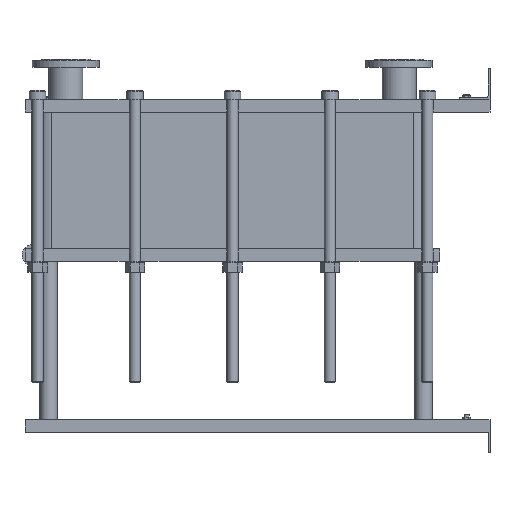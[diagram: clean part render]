
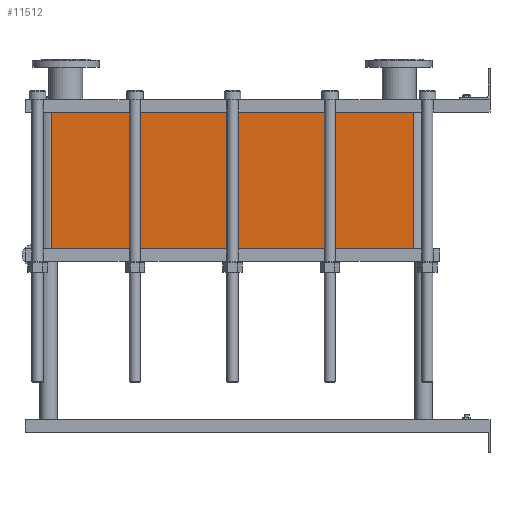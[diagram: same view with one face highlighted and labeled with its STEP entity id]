
A CAD part, left-side view. The second image highlights one B-rep face of the part: STEP entity #11512.
In plain terms, the highlighted planar face has unit normal (-1, 0, 0).
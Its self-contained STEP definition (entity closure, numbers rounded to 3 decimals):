
#1129=LINE('',#23232,#2102);
#1130=LINE('',#23236,#2103);
#1131=LINE('',#23238,#2104);
#1132=LINE('',#23239,#2105);
#2102=VECTOR('',#15887,10.);
#2103=VECTOR('',#15892,10.);
#2104=VECTOR('',#15893,10.);
#2105=VECTOR('',#15894,10.);
#3267=FACE_OUTER_BOUND('',#4093,.T.);
#4093=EDGE_LOOP('',(#10103,#10104,#10105,#10106));
#5642=VERTEX_POINT('',#23229);
#5643=VERTEX_POINT('',#23231);
#5644=VERTEX_POINT('',#23235);
#5645=VERTEX_POINT('',#23237);
#7159=EDGE_CURVE('',#5643,#5642,#1129,.T.);
#7161=EDGE_CURVE('',#5642,#5644,#1130,.T.);
#7162=EDGE_CURVE('',#5645,#5644,#1131,.T.);
#7163=EDGE_CURVE('',#5645,#5643,#1132,.T.);
#10103=ORIENTED_EDGE('',*,*,#7161,.T.);
#10104=ORIENTED_EDGE('',*,*,#7162,.F.);
#10105=ORIENTED_EDGE('',*,*,#7163,.T.);
#10106=ORIENTED_EDGE('',*,*,#7159,.T.);
#10857=PLANE('',#12751);
#11512=ADVANCED_FACE('',(#3267),#10857,.T.);
#12751=AXIS2_PLACEMENT_3D('',#23234,#15890,#15891);
#15887=DIRECTION('',(0.,0.,-1.));
#15890=DIRECTION('center_axis',(-1.,0.,0.));
#15891=DIRECTION('ref_axis',(0.,1.,0.));
#15892=DIRECTION('',(0.,-1.,0.));
#15893=DIRECTION('',(0.,0.,-1.));
#15894=DIRECTION('',(0.,1.,0.));
#23229=CARTESIAN_POINT('',(-200.,1414.,-441.6));
#23231=CARTESIAN_POINT('',(-200.,1414.,0.));
#23232=CARTESIAN_POINT('',(-200.,1414.,0.));
#23234=CARTESIAN_POINT('Origin',(-200.,248.,0.));
#23235=CARTESIAN_POINT('',(-200.,248.,-441.6));
#23236=CARTESIAN_POINT('',(-200.,539.5,-441.6));
#23237=CARTESIAN_POINT('',(-200.,248.,0.));
#23238=CARTESIAN_POINT('',(-200.,248.,0.));
#23239=CARTESIAN_POINT('',(-200.,248.,0.));
